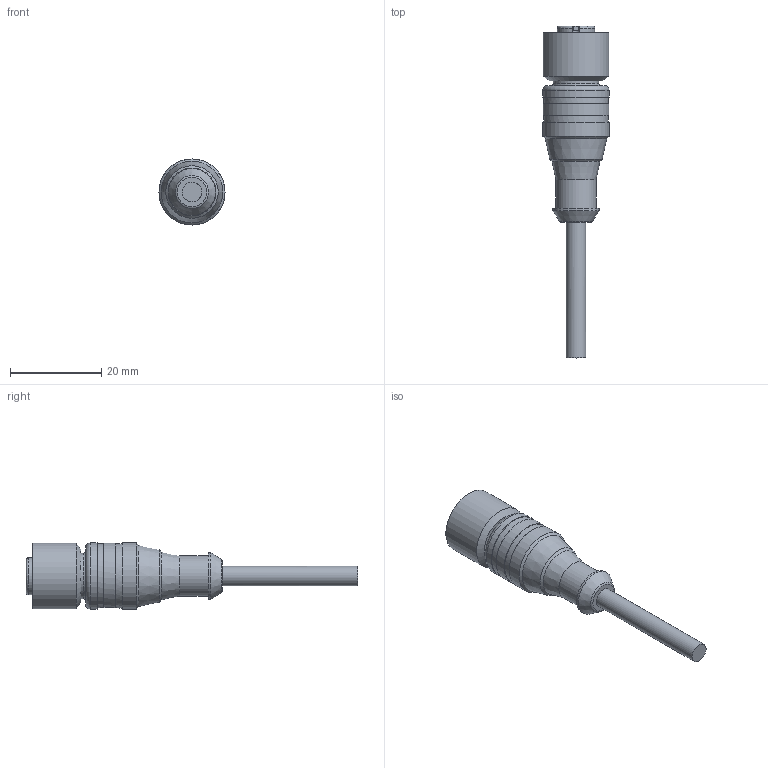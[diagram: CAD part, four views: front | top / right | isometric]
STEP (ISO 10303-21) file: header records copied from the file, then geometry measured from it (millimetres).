
FILE_DESCRIPTION( ( 'Unknown' ), '1' );
FILE_NAME( 'C:/Users/txr10011/Documents/1_in Bearbeitung/151016/Hüllmodelle/RKT 4-3_224_xxM.stp', 'Unknown', ( 'Unknown' ), ( 'Unknown' ), 'PSStep 17.0.49', 'Unknown', ' ' );
FILE_SCHEMA( ( 'AUTOMOTIVE_DESIGN { 1 0 10303 214 1 1 1 1 }' ) );
Length unit declared in the file: millimetre
Products named in the file (1): 2
Bounding box: 14.5 x 72.86 x 14.5 mm (x, y, z)
Volume: 5277 mm3; surface area: 3086.9 mm2
Topology: 1 solids, 1 shells, 115 faces, 287 edges, 189 vertices
Faces by surface type: plane 62, cylinder 29, cone 13, torus 6, extrusion 5
Full cylindrical faces by diameter (mm): 1.1 x4, 2 x1, 4.3 x1, 8.8 x1, 10 x1, 10.3 x1, 10.8 x1, 11.05 x1, 12.2 x1, 14.2 x2, 14.5 x3
Entity records: 4667 total; most frequent: CARTESIAN_POINT 1191, DIRECTION 522, ORIENTED_EDGE 474, EDGE_CURVE 237, AXIS2_PLACEMENT_3D 196, VERTEX_POINT 173, EDGE_LOOP 165, FACE_OUTER_BOUND 135
